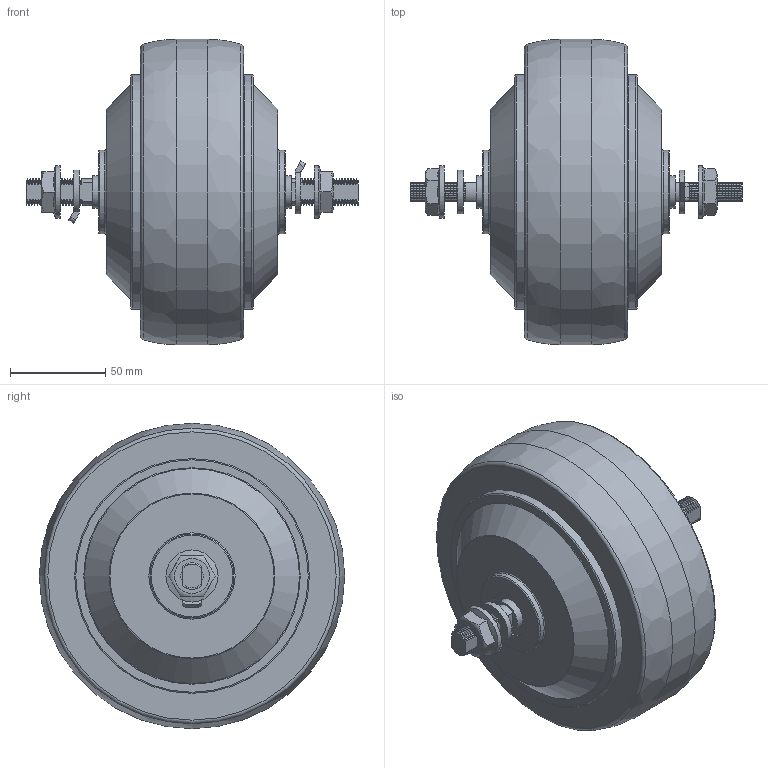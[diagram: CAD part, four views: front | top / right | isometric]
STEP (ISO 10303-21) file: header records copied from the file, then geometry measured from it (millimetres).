
FILE_DESCRIPTION(/* description */ (''),/* implementation_level */ '2;1');
FILE_NAME(/* name */ '6寸带霍尔轮毂电机.stp',/* time_stamp */ '2025-01-15T16:29:39+08:00',/* author */ (''),/* organization */ (''),/* preprocessor_version */ 'ST-DEVELOPER v16.7',/* originating_system */ 'SIEMENS PLM Software NX 12.0',/* authorisation */ '');
FILE_SCHEMA (('AUTOMOTIVE_DESIGN { 1 0 10303 214 3 1 1 1 }'));
Products named in the file (1): Li YCC48C1F940wv
Bounding box: 174 x 160 x 160 mm (x, y, z)
Volume: 1420007.3 mm3; surface area: 82221.2 mm2
Topology: 5 solids, 5 shells, 424 faces, 1196 edges, 794 vertices
Faces by surface type: cylinder 189, bspline 164, plane 52, torus 15, cone 4
Full cylindrical faces by diameter (mm): 12 x2, 17 x2, 25 x2, 27.3 x2, 44 x2, 123 x2, 160 x1
Entity records: 126161 total; most frequent: CARTESIAN_POINT 117091, ORIENTED_EDGE 2302, EDGE_CURVE 1151, DIRECTION 1076, VERTEX_POINT 783, B_SPLINE_CURVE_WITH_KNOTS 680, EDGE_LOOP 478, ADVANCED_FACE 424
